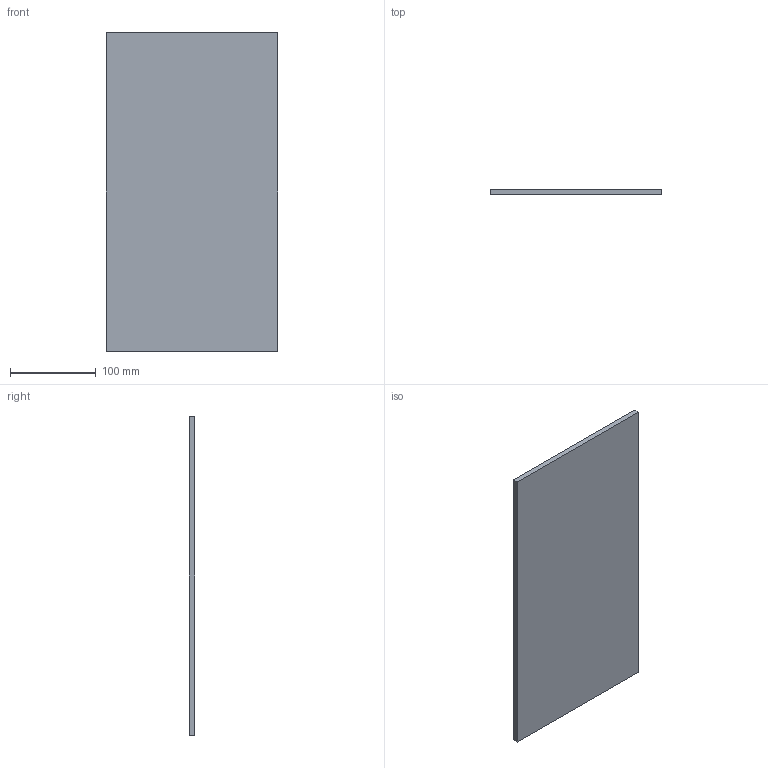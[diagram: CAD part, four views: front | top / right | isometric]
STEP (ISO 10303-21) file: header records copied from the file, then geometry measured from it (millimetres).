
FILE_DESCRIPTION(('Open CASCADE Model'),'2;1');
FILE_NAME('Open CASCADE Shape Model','2026-10-16T18:03:45',('Author'),( 'Open CASCADE'),'Open CASCADE STEP processor 7.8','Open CASCADE 7.8' ,'Unknown');
FILE_SCHEMA(('AUTOMOTIVE_DESIGN { 1 0 10303 214 1 1 1 1 }'));
Length unit declared in the file: millimetre
Products named in the file (1): Open CASCADE STEP translator 7.8 7
Bounding box: 200 x 6 x 372 mm (x, y, z)
Volume: 446400 mm3; surface area: 155664 mm2
Topology: 1 solids, 1 shells, 6 faces, 12 edges, 8 vertices
Faces by surface type: plane 6
Entity records: 322 total; most frequent: CARTESIAN_POINT 51, DIRECTION 50, LINE 36, VECTOR 36, ORIENTED_EDGE 24, PCURVE 24, DEFINITIONAL_REPRESENTATION 24, EDGE_CURVE 12
